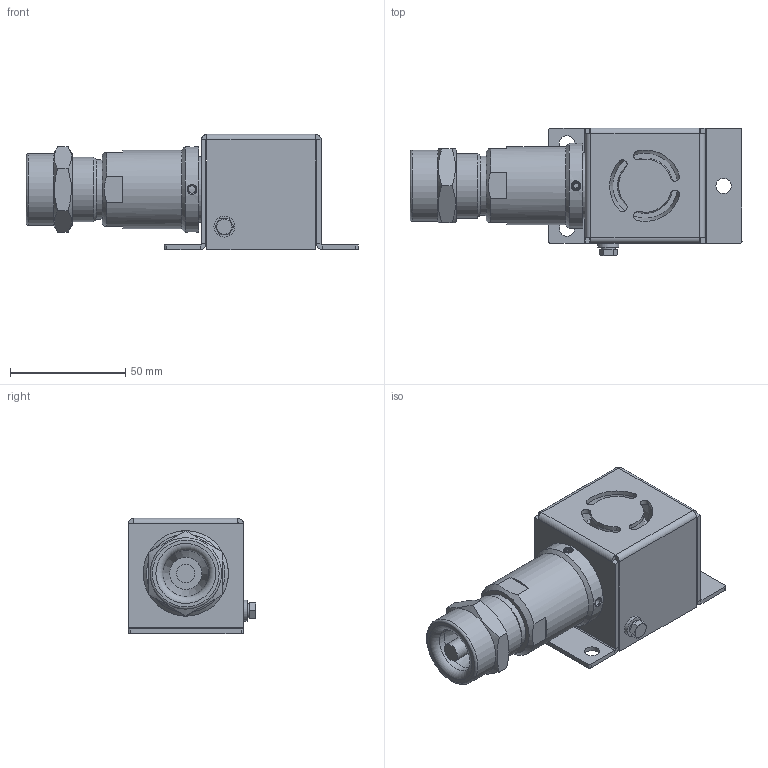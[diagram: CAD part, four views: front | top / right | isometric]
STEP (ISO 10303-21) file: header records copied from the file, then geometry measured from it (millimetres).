
FILE_DESCRIPTION(('STEP AP203'), '1');
FILE_NAME('ﾂﾑ-6ﾌ-24ﾂ-ﾍ.stp', '2020-12-10T11:24:45', ($), ($), 'ASCON STEP Converter 1.3', 'Kompas 3D', '');
FILE_SCHEMA(('CONFIG_CONTROL_DESIGN','SUPPORT_RESOURCE_SCHEMA'));
Length unit declared in the file: millimetre
Products named in the file (1): 1
Bounding box: 144.07 x 55.4 x 50.07 mm (x, y, z)
Volume: 87014.6 mm3; surface area: 61600 mm2
Topology: 2 solids, 4 shells, 339 faces, 776 edges, 481 vertices
Faces by surface type: plane 196, cylinder 99, cone 32, bspline 5, torus 5, sphere 2
Full cylindrical faces by diameter (mm): 2.013 x2, 2.5 x4, 3 x4, 3.24 x3, 3.4 x2, 4 x3, 4.3 x1, 4.5 x3, 6.6 x3, 8 x2, 8.5 x1, 9 x1, 12 x1, 13 x1, 15 x1, 19 x1, 20 x1, 23.5 x1, 24 x2, 25 x1, 25.8 x1, 26 x1, 26.376 x1, 27.8 x2, 28 x1, 28.5 x1, 28.6 x1, 30 x1, 30.5 x2, 31 x2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
Entity records: 12034 total; most frequent: CARTESIAN_POINT 4175, DIRECTION 1645, ORIENTED_EDGE 1548, EDGE_CURVE 774, AXIS2_PLACEMENT_3D 602, VERTEX_POINT 481, LINE 441, VECTOR 441
